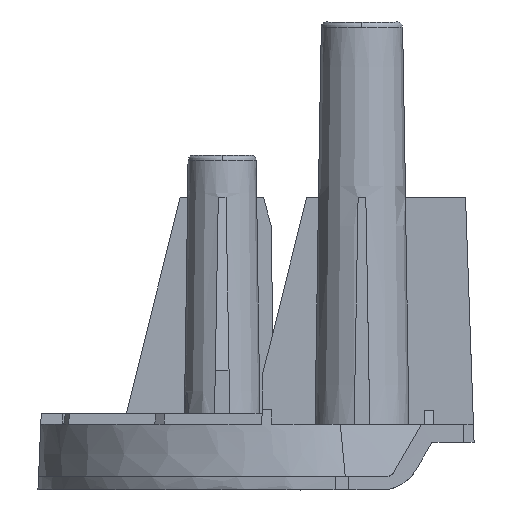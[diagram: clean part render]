
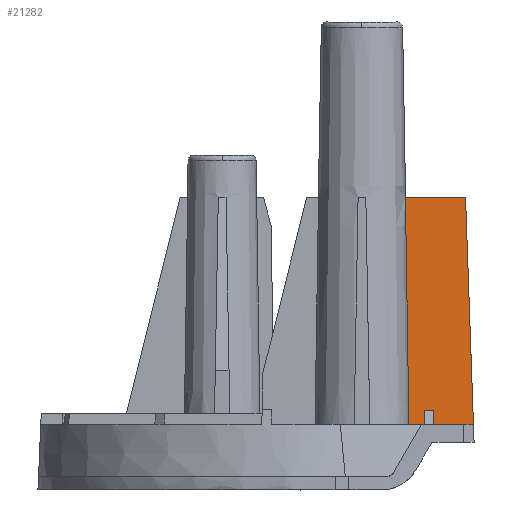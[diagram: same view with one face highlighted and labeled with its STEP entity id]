
A CAD part, left-side view. The second image highlights one B-rep face of the part: STEP entity #21282.
In plain terms, the highlighted planar face has unit normal (-1, 0, 0.018).
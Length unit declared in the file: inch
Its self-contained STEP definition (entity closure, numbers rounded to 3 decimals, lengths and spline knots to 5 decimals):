
#547 = ORIENTED_EDGE ( 'NONE', *, *, #36215, .F. ) ;
#1988 = ORIENTED_EDGE ( 'NONE', *, *, #61784, .T. ) ;
#4903 = VERTEX_POINT ( 'NONE', #7266 ) ;
#5534 = VERTEX_POINT ( 'NONE', #34388 ) ;
#5828 = VECTOR ( 'NONE', #10930, 39.37008 ) ;
#6100 = FACE_OUTER_BOUND ( 'NONE', #50401, .T. ) ;
#6221 = VERTEX_POINT ( 'NONE', #20565 ) ;
#7018 = CARTESIAN_POINT ( 'NONE',  ( -2.98228, 0.4061, 1.47795 ) ) ;
#7240 = CARTESIAN_POINT ( 'NONE',  ( -2.99197, 0.39724, 0.92276 ) ) ;
#7266 = CARTESIAN_POINT ( 'NONE',  ( -3.01252, 0.18963, -0.25433 ) ) ;
#7458 = CARTESIAN_POINT ( 'NONE',  ( -3.00205, 0.38837, 0.34533 ) ) ;
#7468 = VECTOR ( 'NONE', #19468, 39.37008 ) ;
#8188 = CARTESIAN_POINT ( 'NONE',  ( -2.98228, 0.4061, 1.47795 ) ) ;
#9131 = LINE ( 'NONE', #36751, #5828 ) ;
#9352 = LINE ( 'NONE', #39062, #15897 ) ;
#9596 = VECTOR ( 'NONE', #64714, 39.37008 ) ;
#10295 = EDGE_CURVE ( 'NONE', #6221, #15463, #32471, .T. ) ;
#10856 = ORIENTED_EDGE ( 'NONE', *, *, #64370, .T. ) ;
#10930 = DIRECTION ( 'NONE',  ( 0., -1., 0. ) ) ;
#13393 = ORIENTED_EDGE ( 'NONE', *, *, #23845, .T. ) ;
#15463 = VERTEX_POINT ( 'NONE', #24445 ) ;
#15897 = VECTOR ( 'NONE', #38851, 39.37008 ) ;
#15908 = VERTEX_POINT ( 'NONE', #28798 ) ;
#17101 = EDGE_CURVE ( 'NONE', #5534, #47144, #31021, .T. ) ;
#18889 = B_SPLINE_CURVE_WITH_KNOTS ( 'NONE', 3,
 ( #7018, #7240, #7458, #23676 ),
 .UNSPECIFIED., .F., .F.,
 ( 4, 4 ),
 ( 0., 1. ),
 .UNSPECIFIED. ) ;
#19288 = PLANE ( 'NONE',  #59903 ) ;
#19468 = DIRECTION ( 'NONE',  ( 0., 1., 0. ) ) ;
#20565 = CARTESIAN_POINT ( 'NONE',  ( -2.98228, -0.05318, 1.47795 ) ) ;
#21282 = ADVANCED_FACE ( 'NONE', ( #6100 ), #19288, .T. ) ;
#22327 = DIRECTION ( 'NONE',  ( 0., 1., 0. ) ) ;
#23676 = CARTESIAN_POINT ( 'NONE',  ( -3.01252, 0.3795, -0.25433 ) ) ;
#23845 = EDGE_CURVE ( 'NONE', #6221, #39169, #36900, .T. ) ;
#24445 = CARTESIAN_POINT ( 'NONE',  ( -3.01252, -0.11367, -0.25433 ) ) ;
#26965 = DIRECTION ( 'NONE',  ( -0.017, -0.017, -1. ) ) ;
#28798 = CARTESIAN_POINT ( 'NONE',  ( -3.01063, 0.26123, -0.14594 ) ) ;
#29226 = ORIENTED_EDGE ( 'NONE', *, *, #57736, .T. ) ;
#31021 = LINE ( 'NONE', #43131, #48163 ) ;
#31638 = VERTEX_POINT ( 'NONE', #34141 ) ;
#31812 = LINE ( 'NONE', #47716, #52215 ) ;
#32471 = LINE ( 'NONE', #38747, #9596 ) ;
#34141 = CARTESIAN_POINT ( 'NONE',  ( -3.01063, 0.19153, -0.14594 ) ) ;
#34388 = CARTESIAN_POINT ( 'NONE',  ( -3.01252, 0.26312, -0.25433 ) ) ;
#36215 = EDGE_CURVE ( 'NONE', #15908, #5534, #57040, .T. ) ;
#36751 = CARTESIAN_POINT ( 'NONE',  ( -3.01063, 0., -0.14594 ) ) ;
#36900 = LINE ( 'NONE', #50958, #7468 ) ;
#37601 = ORIENTED_EDGE ( 'NONE', *, *, #57213, .F. ) ;
#37942 = ORIENTED_EDGE ( 'NONE', *, *, #17101, .F. ) ;
#38747 = CARTESIAN_POINT ( 'NONE',  ( -2.98228, -0.05318, 1.47795 ) ) ;
#38851 = DIRECTION ( 'NONE',  ( 0., 1., 0. ) ) ;
#39062 = CARTESIAN_POINT ( 'NONE',  ( -3.01252, 0.93655, -0.25433 ) ) ;
#39169 = VERTEX_POINT ( 'NONE', #8188 ) ;
#43131 = CARTESIAN_POINT ( 'NONE',  ( -3.01252, 0.93655, -0.25433 ) ) ;
#45334 = DIRECTION ( 'NONE',  ( 0.017, 0., 1. ) ) ;
#46219 = CARTESIAN_POINT ( 'NONE',  ( -3.0053, 0., 0.15906 ) ) ;
#47144 = VERTEX_POINT ( 'NONE', #57592 ) ;
#47716 = CARTESIAN_POINT ( 'NONE',  ( -3.01063, 0.19153, -0.14594 ) ) ;
#48163 = VECTOR ( 'NONE', #22327, 39.37008 ) ;
#48862 = DIRECTION ( 'NONE',  ( -0.017, 0.017, -1. ) ) ;
#50401 = EDGE_LOOP ( 'NONE', ( #10856, #1988, #37601, #51819, #13393, #29226, #37942, #547 ) ) ;
#50958 = CARTESIAN_POINT ( 'NONE',  ( -2.98228, 0., 1.47795 ) ) ;
#51819 = ORIENTED_EDGE ( 'NONE', *, *, #10295, .F. ) ;
#52215 = VECTOR ( 'NONE', #26965, 39.37008 ) ;
#53901 = CARTESIAN_POINT ( 'NONE',  ( -3.01063, 0.26123, -0.14594 ) ) ;
#54601 = VECTOR ( 'NONE', #48862, 39.37008 ) ;
#56259 = DIRECTION ( 'NONE',  ( -1., 0., 0.017 ) ) ;
#57040 = LINE ( 'NONE', #53901, #54601 ) ;
#57213 = EDGE_CURVE ( 'NONE', #15463, #4903, #9352, .T. ) ;
#57592 = CARTESIAN_POINT ( 'NONE',  ( -3.01252, 0.3795, -0.25433 ) ) ;
#57736 = EDGE_CURVE ( 'NONE', #39169, #47144, #18889, .T. ) ;
#59903 = AXIS2_PLACEMENT_3D ( 'NONE', #46219, #56259, #45334 ) ;
#61784 = EDGE_CURVE ( 'NONE', #31638, #4903, #31812, .T. ) ;
#64370 = EDGE_CURVE ( 'NONE', #15908, #31638, #9131, .T. ) ;
#64714 = DIRECTION ( 'NONE',  ( -0.017, -0.035, -0.999 ) ) ;
